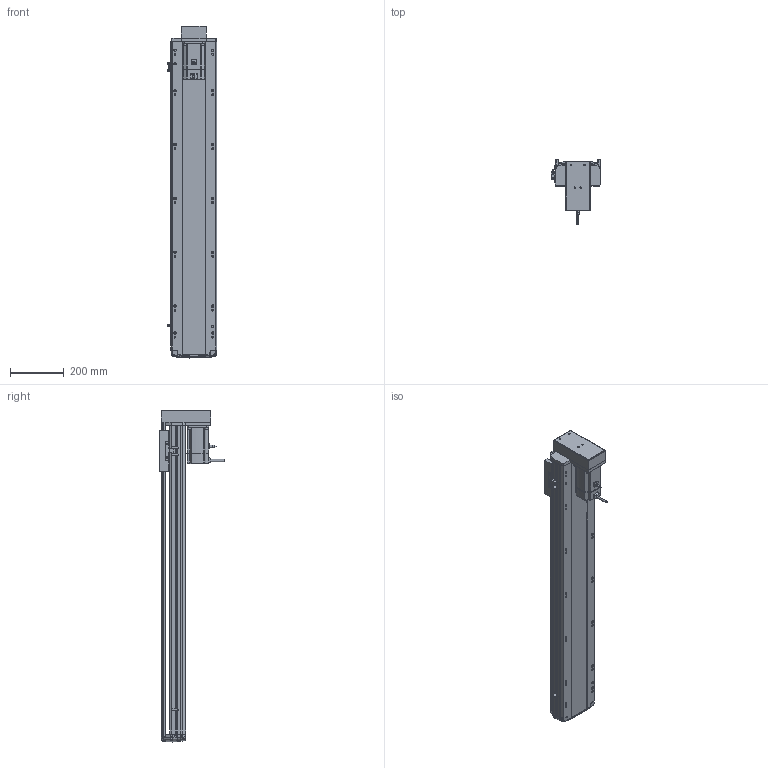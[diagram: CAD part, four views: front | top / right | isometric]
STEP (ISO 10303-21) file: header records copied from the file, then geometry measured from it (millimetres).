
FILE_DESCRIPTION (( 'STEP AP214' ), '1' );
FILE_NAME ('RTH17-XX-950-M-M75-C4.STEP', '2025-10-24T10:26:34', ( '' ), ( '' ), 'SwSTEP 2.0', 'SolidWorks 2018', '' );
FILE_SCHEMA (( 'AUTOMOTIVE_DESIGN' ));
Length unit declared in the file: millimetre
Products named in the file (10): N_RTH-BL-012 感应片(外置)^RTH17-XX-XX-M-M75-C4（方程式）; N_RTH17-M-008-P75电机安装板下折750W^RTH17-XX-XX-M-M75-C4（方程式）; N_RTH17-E-004丝杆螺母连接座^RTH17-XX-XX-M-M75-C4（方程式）; RTH17-XX-950-M-M75-C4; N_RTH17-M-018盖子^RTH17-XX-XX-M-M75-C4（方程式）; N_OMRON EE-SX672 換覜ん^RTH17-XX-XX-M-M75-C4ㄗ源最宒ㄘ; N_RTH17-M-011底座^RTH17-XX-XX-M-M75-C4（方程式）; N_RTH17-M-007上盖^RTH17-XX-XX-M-M75-C4（方程式）; N_M75^RTH17-XX-XX-M-M75-C4（方程式）; N_RTH17-GY-001P^RTH17-XX-XX-M-M75-C4（方程式）
Assembly tree (11 placements, depth 2):
  RTH17-XX-950-M-M75-C4
    N_RTH17-M-011底座^RTH17-XX-XX-M-M75-C4（方程式）
    N_RTH17-M-007上盖^RTH17-XX-XX-M-M75-C4（方程式）
    N_M75^RTH17-XX-XX-M-M75-C4（方程式）
    N_OMRON EE-SX672 換覜ん^RTH17-XX-XX-M-M75-C4ㄗ源最宒ㄘ  x3
    N_RTH-BL-012 感应片(外置)^RTH17-XX-XX-M-M75-C4（方程式）
    N_RTH17-M-008-P75电机安装板下折750W^RTH17-XX-XX-M-M75-C4（方程式）
    N_RTH17-M-018盖子^RTH17-XX-XX-M-M75-C4（方程式）
    N_RTH17-E-004丝杆螺母连接座^RTH17-XX-XX-M-M75-C4（方程式）
    N_RTH17-GY-001P^RTH17-XX-XX-M-M75-C4（方程式）
Bounding box: 183.5 x 240.7 x 1233.19 mm (x, y, z)
Volume: 9925573.3 mm3; surface area: 1368887.8 mm2
Topology: 10 solids, 12 shells, 1773 faces, 4904 edges, 3176 vertices
Faces by surface type: plane 832, cylinder 527, bspline 377, cone 28, torus 9
Entity records: 52103 total; most frequent: CARTESIAN_POINT 20774, ORIENTED_EDGE 6832, DIRECTION 5674, EDGE_CURVE 3420, VERTEX_POINT 2212, AXIS2_PLACEMENT_3D 1915, VECTOR 1844, LINE 1844
